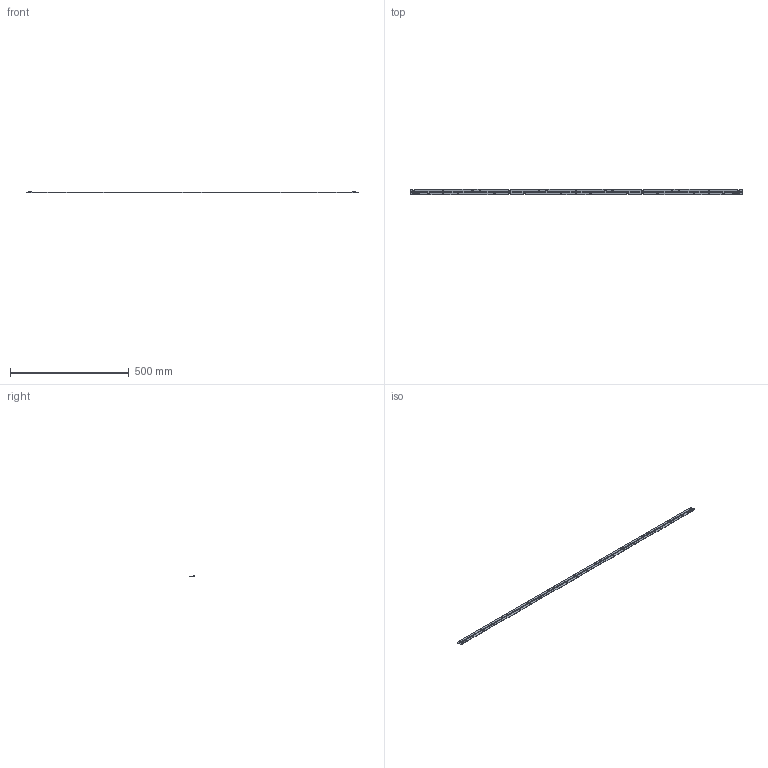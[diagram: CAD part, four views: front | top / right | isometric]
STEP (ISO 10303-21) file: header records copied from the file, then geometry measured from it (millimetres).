
FILE_DESCRIPTION((''),'2;1');
FILE_NAME('16208846_LLE-G5-5FT-HV-10000LM','2019-06-18T15:46:38',('bernhard.fink'),(''),'CREO PARAMETRIC BY PTC INC, 2017380','CREO PARAMETRIC BY PTC INC, 2017380','');
FILE_SCHEMA(('AUTOMOTIVE_DESIGN { 1 0 10303 214 1 1 1 1 }'));
Products named in the file (1): 16208846_LLE-G5-5FT-HV-10000LM
Bounding box: 1399 x 23.6 x 5.1 mm (x, y, z)
Volume: 53613.9 mm3; surface area: 74054.7 mm2
Topology: 181 solids, 183 shells, 1878 faces, 4330 edges, 2814 vertices
Faces by surface type: plane 1407, cylinder 288, bspline 119, cone 34, torus 18, sphere 12
Entity records: 83378 total; most frequent: CARTESIAN_POINT 15531, ORIENTED_EDGE 8604, DIRECTION 7870, PRESENTATION_STYLE_ASSIGNMENT 6160, STYLED_ITEM 4497, CURVE_STYLE 4314, EDGE_CURVE 4314, VECTOR 3362
